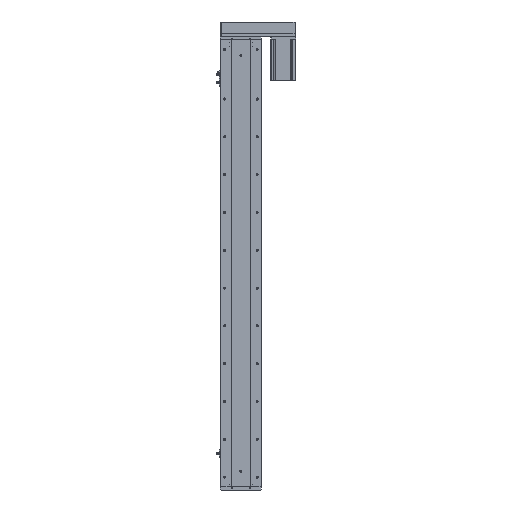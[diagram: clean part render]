
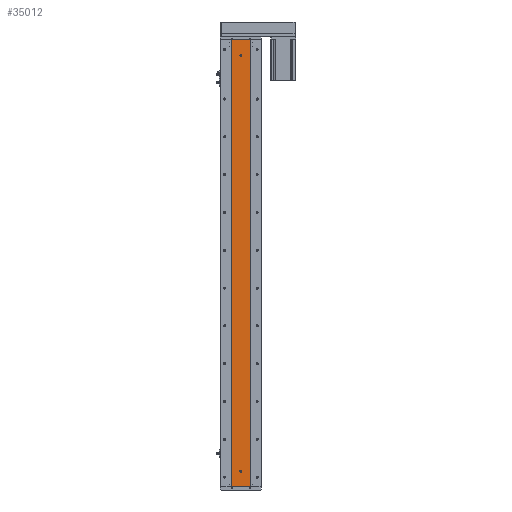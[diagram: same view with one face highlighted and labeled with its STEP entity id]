
A CAD part, left-side view. The second image highlights one B-rep face of the part: STEP entity #35012.
In plain terms, the highlighted planar face has unit normal (-1, 0, 0).
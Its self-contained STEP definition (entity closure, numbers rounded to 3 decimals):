
#971 = DIRECTION ( 'NONE',  ( 0., 0., -1. ) ) ;
#1414 = VERTEX_POINT ( 'NONE', #49945 ) ;
#1950 = EDGE_CURVE ( 'NONE', #4634, #32594, #18015, .T. ) ;
#2207 = CIRCLE ( 'NONE', #41048, 3. ) ;
#2667 = CARTESIAN_POINT ( 'NONE',  ( -24.994, 0., 53. ) ) ;
#2876 = EDGE_CURVE ( 'NONE', #47985, #22848, #2207, .T. ) ;
#4251 = VERTEX_POINT ( 'NONE', #5943 ) ;
#4634 = VERTEX_POINT ( 'NONE', #48983 ) ;
#5078 = ORIENTED_EDGE ( 'NONE', *, *, #1950, .F. ) ;
#5943 = CARTESIAN_POINT ( 'NONE',  ( -24.994, 29.785, 0. ) ) ;
#7127 = CARTESIAN_POINT ( 'NONE',  ( -24.994, 29.785, 1419. ) ) ;
#7720 = CARTESIAN_POINT ( 'NONE',  ( -24.994, 0., 1369. ) ) ;
#7901 = VECTOR ( 'NONE', #38554, 1000. ) ;
#8611 = CIRCLE ( 'NONE', #38258, 3. ) ;
#8667 = DIRECTION ( 'NONE',  ( 0., 0., -1. ) ) ;
#11714 = DIRECTION ( 'NONE',  ( 0., 0., 1. ) ) ;
#12137 = EDGE_LOOP ( 'NONE', ( #42832, #14859 ) ) ;
#12688 = EDGE_CURVE ( 'NONE', #32594, #4634, #8611, .T. ) ;
#13879 = DIRECTION ( 'NONE',  ( -1., 0., 0. ) ) ;
#14284 = DIRECTION ( 'NONE',  ( -1., 0., 0. ) ) ;
#14416 = AXIS2_PLACEMENT_3D ( 'NONE', #7720, #35685, #11714 ) ;
#14474 = DIRECTION ( 'NONE',  ( 1., 0., 0. ) ) ;
#14522 = CARTESIAN_POINT ( 'NONE',  ( -24.994, 29.785, 0. ) ) ;
#14859 = ORIENTED_EDGE ( 'NONE', *, *, #36185, .F. ) ;
#15552 = CARTESIAN_POINT ( 'NONE',  ( -24.994, 0., 1366. ) ) ;
#15903 = ORIENTED_EDGE ( 'NONE', *, *, #17133, .F. ) ;
#16628 = CARTESIAN_POINT ( 'NONE',  ( -24.994, 29.785, 1419. ) ) ;
#17133 = EDGE_CURVE ( 'NONE', #28362, #1414, #23227, .T. ) ;
#17427 = LINE ( 'NONE', #36671, #48158 ) ;
#17527 = ORIENTED_EDGE ( 'NONE', *, *, #37011, .T. ) ;
#18015 = CIRCLE ( 'NONE', #21860, 3. ) ;
#18064 = LINE ( 'NONE', #7127, #39394 ) ;
#19321 = DIRECTION ( 'NONE',  ( 0., -1., 0. ) ) ;
#20296 = EDGE_LOOP ( 'NONE', ( #34323, #5078 ) ) ;
#21860 = AXIS2_PLACEMENT_3D ( 'NONE', #38313, #14284, #42312 ) ;
#22333 = PLANE ( 'NONE',  #23066 ) ;
#22848 = VERTEX_POINT ( 'NONE', #15552 ) ;
#23066 = AXIS2_PLACEMENT_3D ( 'NONE', #38506, #14474, #42500 ) ;
#23227 = LINE ( 'NONE', #48969, #44580 ) ;
#23428 = CARTESIAN_POINT ( 'NONE',  ( -24.994, 0., 1369. ) ) ;
#26792 = CARTESIAN_POINT ( 'NONE',  ( -24.994, -29.785, 1419. ) ) ;
#27468 = DIRECTION ( 'NONE',  ( 0., 0., 1. ) ) ;
#28362 = VERTEX_POINT ( 'NONE', #26792 ) ;
#28954 = FACE_OUTER_BOUND ( 'NONE', #49134, .T. ) ;
#30214 = FACE_BOUND ( 'NONE', #12137, .T. ) ;
#32413 = ORIENTED_EDGE ( 'NONE', *, *, #43638, .F. ) ;
#32594 = VERTEX_POINT ( 'NONE', #2667 ) ;
#34323 = ORIENTED_EDGE ( 'NONE', *, *, #12688, .F. ) ;
#35012 = ADVANCED_FACE ( 'NONE', ( #30214, #50314, #28954 ), #22333, .F. ) ;
#35685 = DIRECTION ( 'NONE',  ( -1., 0., 0. ) ) ;
#36185 = EDGE_CURVE ( 'NONE', #22848, #47985, #39495, .T. ) ;
#36671 = CARTESIAN_POINT ( 'NONE',  ( -24.994, 29.785, 1419. ) ) ;
#37011 = EDGE_CURVE ( 'NONE', #39641, #4251, #17427, .T. ) ;
#37352 = LINE ( 'NONE', #14522, #7901 ) ;
#37749 = EDGE_CURVE ( 'NONE', #4251, #1414, #37352, .T. ) ;
#37924 = CARTESIAN_POINT ( 'NONE',  ( -24.994, 0., 50. ) ) ;
#38258 = AXIS2_PLACEMENT_3D ( 'NONE', #37924, #13879, #41906 ) ;
#38313 = CARTESIAN_POINT ( 'NONE',  ( -24.994, 0., 50. ) ) ;
#38506 = CARTESIAN_POINT ( 'NONE',  ( -24.994, 29.785, 1419. ) ) ;
#38554 = DIRECTION ( 'NONE',  ( 0., -1., 0. ) ) ;
#39394 = VECTOR ( 'NONE', #19321, 1000. ) ;
#39495 = CIRCLE ( 'NONE', #14416, 3. ) ;
#39641 = VERTEX_POINT ( 'NONE', #16628 ) ;
#41048 = AXIS2_PLACEMENT_3D ( 'NONE', #23428, #51488, #27468 ) ;
#41906 = DIRECTION ( 'NONE',  ( 0., 0., 1. ) ) ;
#42312 = DIRECTION ( 'NONE',  ( 0., 0., 1. ) ) ;
#42500 = DIRECTION ( 'NONE',  ( 0., 0., -1. ) ) ;
#42832 = ORIENTED_EDGE ( 'NONE', *, *, #2876, .F. ) ;
#43638 = EDGE_CURVE ( 'NONE', #39641, #28362, #18064, .T. ) ;
#44580 = VECTOR ( 'NONE', #971, 1000. ) ;
#46674 = CARTESIAN_POINT ( 'NONE',  ( -24.994, 0., 1372. ) ) ;
#47473 = ORIENTED_EDGE ( 'NONE', *, *, #37749, .T. ) ;
#47985 = VERTEX_POINT ( 'NONE', #46674 ) ;
#48158 = VECTOR ( 'NONE', #8667, 1000. ) ;
#48969 = CARTESIAN_POINT ( 'NONE',  ( -24.994, -29.785, 1419. ) ) ;
#48983 = CARTESIAN_POINT ( 'NONE',  ( -24.994, 0., 47. ) ) ;
#49134 = EDGE_LOOP ( 'NONE', ( #47473, #15903, #32413, #17527 ) ) ;
#49945 = CARTESIAN_POINT ( 'NONE',  ( -24.994, -29.785, 0. ) ) ;
#50314 = FACE_BOUND ( 'NONE', #20296, .T. ) ;
#51488 = DIRECTION ( 'NONE',  ( -1., 0., 0. ) ) ;
